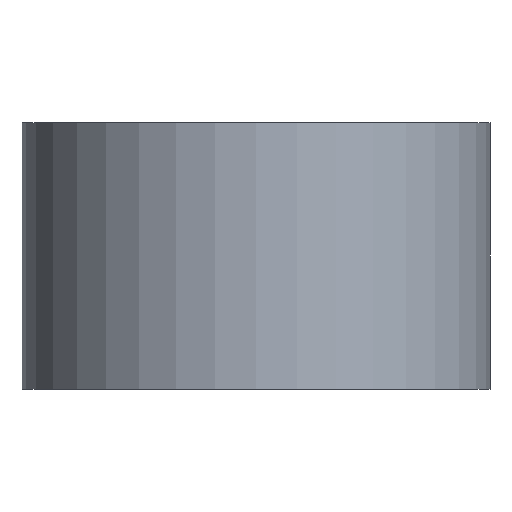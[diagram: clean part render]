
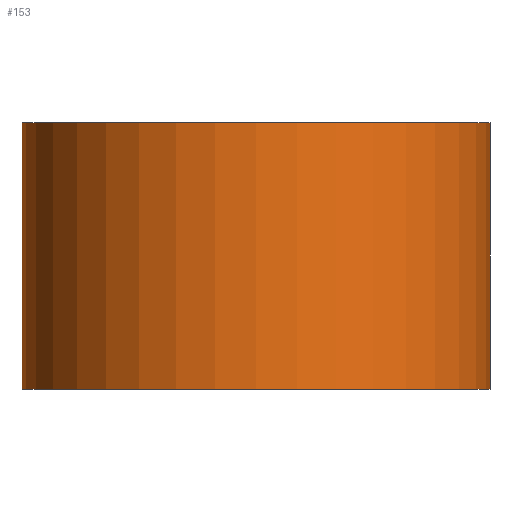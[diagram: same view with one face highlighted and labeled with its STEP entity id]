
A CAD part, front view. The second image highlights one B-rep face of the part: STEP entity #153.
In plain terms, the highlighted cylindrical face has radius 36 mm (diameter 72 mm), a partial arc.
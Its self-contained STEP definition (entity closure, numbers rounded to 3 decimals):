
#3 = CARTESIAN_POINT ( 'NONE',  ( -36., 0., 41. ) ) ;
#15 = VERTEX_POINT ( 'NONE', #17 ) ;
#17 = CARTESIAN_POINT ( 'NONE',  ( 36., 0., 41. ) ) ;
#18 = EDGE_CURVE ( 'NONE', #229, #15, #215, .T. ) ;
#19 = CARTESIAN_POINT ( 'NONE',  ( -36., 0., 0. ) ) ;
#41 = CARTESIAN_POINT ( 'NONE',  ( -36., 0., 41. ) ) ;
#53 = VECTOR ( 'NONE', #233, 1000. ) ;
#58 = AXIS2_PLACEMENT_3D ( 'NONE', #98, #239, #154 ) ;
#62 = AXIS2_PLACEMENT_3D ( 'NONE', #122, #157, #198 ) ;
#98 = CARTESIAN_POINT ( 'NONE',  ( 0., 0., 41. ) ) ;
#100 = EDGE_CURVE ( 'NONE', #241, #237, #219, .T. ) ;
#101 = FACE_OUTER_BOUND ( 'NONE', #146, .T. ) ;
#121 = DIRECTION ( 'NONE',  ( 1., 0., 0. ) ) ;
#122 = CARTESIAN_POINT ( 'NONE',  ( 0., 0., 41. ) ) ;
#123 = AXIS2_PLACEMENT_3D ( 'NONE', #135, #214, #121 ) ;
#126 = ORIENTED_EDGE ( 'NONE', *, *, #18, .F. ) ;
#134 = EDGE_CURVE ( 'NONE', #229, #241, #216, .T. ) ;
#135 = CARTESIAN_POINT ( 'NONE',  ( 0., 0., 0. ) ) ;
#136 = VECTOR ( 'NONE', #199, 1000. ) ;
#139 = ORIENTED_EDGE ( 'NONE', *, *, #170, .F. ) ;
#146 = EDGE_LOOP ( 'NONE', ( #139, #126, #152, #151 ) ) ;
#151 = ORIENTED_EDGE ( 'NONE', *, *, #100, .T. ) ;
#152 = ORIENTED_EDGE ( 'NONE', *, *, #134, .T. ) ;
#153 = ADVANCED_FACE ( 'NONE', ( #101 ), #218, .T. ) ;
#154 = DIRECTION ( 'NONE',  ( 1., 0., 0. ) ) ;
#156 = CARTESIAN_POINT ( 'NONE',  ( 36., 0., 0. ) ) ;
#157 = DIRECTION ( 'NONE',  ( 0., 0., -1. ) ) ;
#170 = EDGE_CURVE ( 'NONE', #15, #237, #172, .T. ) ;
#172 = LINE ( 'NONE', #247, #53 ) ;
#198 = DIRECTION ( 'NONE',  ( -1., 0., 0. ) ) ;
#199 = DIRECTION ( 'NONE',  ( 0., 0., -1. ) ) ;
#214 = DIRECTION ( 'NONE',  ( 0., 0., 1. ) ) ;
#215 = CIRCLE ( 'NONE', #58, 36. ) ;
#216 = LINE ( 'NONE', #3, #136 ) ;
#218 = CYLINDRICAL_SURFACE ( 'NONE', #62, 36. ) ;
#219 = CIRCLE ( 'NONE', #123, 36. ) ;
#229 = VERTEX_POINT ( 'NONE', #41 ) ;
#233 = DIRECTION ( 'NONE',  ( 0., 0., -1. ) ) ;
#237 = VERTEX_POINT ( 'NONE', #156 ) ;
#239 = DIRECTION ( 'NONE',  ( 0., 0., 1. ) ) ;
#241 = VERTEX_POINT ( 'NONE', #19 ) ;
#247 = CARTESIAN_POINT ( 'NONE',  ( 36., 0., 41. ) ) ;
